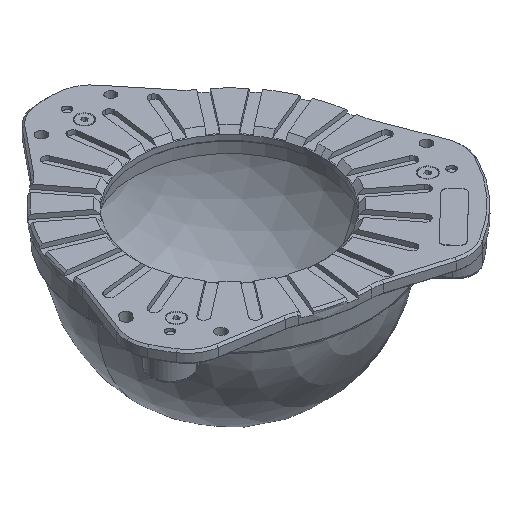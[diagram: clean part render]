
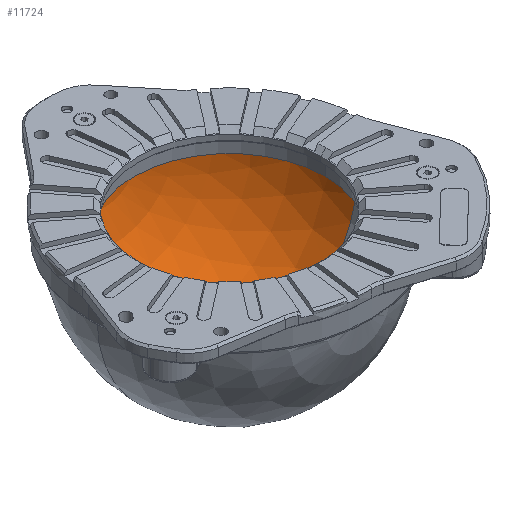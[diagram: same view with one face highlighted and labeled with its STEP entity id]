
A CAD part, isometric view. The second image highlights one B-rep face of the part: STEP entity #11724.
In plain terms, the highlighted spherical face has radius 52 mm.
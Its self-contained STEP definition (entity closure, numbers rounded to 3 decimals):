
#11663 = VERTEX_POINT ( 'NONE', #19017 ) ;
#11666 = VERTEX_POINT ( 'NONE', #19016 ) ;
#11673 = VERTEX_POINT ( 'NONE', #19100 ) ;
#11704 = ORIENTED_EDGE ( 'NONE', *, *, #11705, .F. ) ;
#11705 = EDGE_CURVE ( 'NONE', #11706, #11666, #19178, .T. ) ;
#11706 = VERTEX_POINT ( 'NONE', #19169 ) ;
#11707 = ORIENTED_EDGE ( 'NONE', *, *, #11709, .T. ) ;
#11709 = EDGE_CURVE ( 'NONE', #11706, #11710, #19167, .T. ) ;
#11710 = VERTEX_POINT ( 'NONE', #19162 ) ;
#11711 = ORIENTED_EDGE ( 'NONE', *, *, #11712, .F. ) ;
#11712 = EDGE_CURVE ( 'NONE', #11713, #11710, #19213, .T. ) ;
#11713 = VERTEX_POINT ( 'NONE', #19215 ) ;
#11714 = ORIENTED_EDGE ( 'NONE', *, *, #11715, .F. ) ;
#11715 = EDGE_CURVE ( 'NONE', #11716, #11713, #19212, .T. ) ;
#11716 = VERTEX_POINT ( 'NONE', #19208 ) ;
#11717 = ORIENTED_EDGE ( 'NONE', *, *, #11718, .F. ) ;
#11718 = EDGE_CURVE ( 'NONE', #11728, #11716, #19184, .T. ) ;
#11724 = ADVANCED_FACE ( 'NONE', ( #19232 ), #19268, .F. ) ;
#11725 = EDGE_LOOP ( 'NONE', ( #11726, #11729, #11731, #11704, #11707, #11711, #11714, #11717 ) ) ;
#11726 = ORIENTED_EDGE ( 'NONE', *, *, #11727, .T. ) ;
#11727 = EDGE_CURVE ( 'NONE', #11728, #11673, #19267, .T. ) ;
#11728 = VERTEX_POINT ( 'NONE', #19258 ) ;
#11729 = ORIENTED_EDGE ( 'NONE', *, *, #11730, .T. ) ;
#11730 = EDGE_CURVE ( 'NONE', #11673, #11663, #19257, .T. ) ;
#11731 = ORIENTED_EDGE ( 'NONE', *, *, #11732, .F. ) ;
#11732 = EDGE_CURVE ( 'NONE', #11666, #11663, #19305, .T. ) ;
#19016 = CARTESIAN_POINT ( 'NONE',  ( -34.415, 10.701, -61.479 ) ) ;
#19017 = CARTESIAN_POINT ( 'NONE',  ( -54.415, 10.701, -61.479 ) ) ;
#19100 = CARTESIAN_POINT ( 'NONE',  ( -96.407, 10.701, -11.404 ) ) ;
#19162 = CARTESIAN_POINT ( 'NONE',  ( -42.21, 62.645, -11.404 ) ) ;
#19163 = DIRECTION ( 'NONE',  ( 1., 0., 0. ) ) ;
#19164 = DIRECTION ( 'NONE',  ( 0., 0., 1. ) ) ;
#19165 = CARTESIAN_POINT ( 'NONE',  ( -44.415, 10.701, -11.404 ) ) ;
#19166 = AXIS2_PLACEMENT_3D ( 'NONE', #19165, #19164, #19163 ) ;
#19167 = CIRCLE ( 'NONE', #19166, 51.991 ) ;
#19169 = CARTESIAN_POINT ( 'NONE',  ( 7.576, 10.701, -11.404 ) ) ;
#19170 = DIRECTION ( 'NONE',  ( -1., 0., 0. ) ) ;
#19171 = DIRECTION ( 'NONE',  ( 0., 1., 0. ) ) ;
#19172 = CARTESIAN_POINT ( 'NONE',  ( -44.415, 10.701, -10.45 ) ) ;
#19173 = AXIS2_PLACEMENT_3D ( 'NONE', #19172, #19171, #19170 ) ;
#19178 = CIRCLE ( 'NONE', #19173, 52. ) ;
#19181 = CARTESIAN_POINT ( 'NONE',  ( -46.454, 62.632, -12.508 ) ) ;
#19182 = CARTESIAN_POINT ( 'NONE',  ( -46.621, 62.645, -11.404 ) ) ;
#19184 = B_SPLINE_CURVE_WITH_KNOTS ( 'NONE', 3,
 ( #19182, #19181, #19251, #19250, #19249, #19248, #19247, #19246, #19245, #19244, #19243, #19242, #19241, #19240, #19239, #19238, #19237, #19236, #19235, #19234, #19233 ),
 .UNSPECIFIED., .F., .F.,
 ( 4, 2, 1, 1, 1, 2, 2, 2, 2, 2, 2, 4 ),
 ( 0.016, 0.019, 0.02, 0.021, 0.021, 0.021, 0.021, 0.021, 0.022, 0.022, 0.022, 0.023 ),
 .UNSPECIFIED. ) ;
#19185 = CARTESIAN_POINT ( 'NONE',  ( -42.21, 62.645, -11.404 ) ) ;
#19186 = CARTESIAN_POINT ( 'NONE',  ( -42.378, 62.632, -12.515 ) ) ;
#19187 = CARTESIAN_POINT ( 'NONE',  ( -42.541, 62.582, -13.632 ) ) ;
#19188 = CARTESIAN_POINT ( 'NONE',  ( -42.737, 62.473, -15.024 ) ) ;
#19189 = CARTESIAN_POINT ( 'NONE',  ( -42.776, 62.449, -15.302 ) ) ;
#19190 = CARTESIAN_POINT ( 'NONE',  ( -42.834, 62.409, -15.719 ) ) ;
#19191 = CARTESIAN_POINT ( 'NONE',  ( -42.863, 62.389, -15.927 ) ) ;
#19192 = CARTESIAN_POINT ( 'NONE',  ( -42.891, 62.367, -16.136 ) ) ;
#19193 = CARTESIAN_POINT ( 'NONE',  ( -42.906, 62.355, -16.24 ) ) ;
#19194 = CARTESIAN_POINT ( 'NONE',  ( -42.909, 62.352, -16.275 ) ) ;
#19195 = CARTESIAN_POINT ( 'NONE',  ( -42.921, 62.344, -16.344 ) ) ;
#19196 = CARTESIAN_POINT ( 'NONE',  ( -42.935, 62.341, -16.375 ) ) ;
#19197 = CARTESIAN_POINT ( 'NONE',  ( -42.977, 62.331, -16.468 ) ) ;
#19198 = CARTESIAN_POINT ( 'NONE',  ( -43.015, 62.325, -16.528 ) ) ;
#19199 = CARTESIAN_POINT ( 'NONE',  ( -43.097, 62.314, -16.639 ) ) ;
#19200 = CARTESIAN_POINT ( 'NONE',  ( -43.143, 62.309, -16.69 ) ) ;
#19201 = CARTESIAN_POINT ( 'NONE',  ( -43.29, 62.295, -16.833 ) ) ;
#19202 = CARTESIAN_POINT ( 'NONE',  ( -43.403, 62.287, -16.916 ) ) ;
#19203 = CARTESIAN_POINT ( 'NONE',  ( -43.644, 62.275, -17.048 ) ) ;
#19204 = CARTESIAN_POINT ( 'NONE',  ( -43.774, 62.27, -17.098 ) ) ;
#19205 = CARTESIAN_POINT ( 'NONE',  ( -44.04, 62.264, -17.166 ) ) ;
#19206 = CARTESIAN_POINT ( 'NONE',  ( -44.177, 62.263, -17.183 ) ) ;
#19207 = CARTESIAN_POINT ( 'NONE',  ( -44.315, 62.263, -17.182 ) ) ;
#19208 = CARTESIAN_POINT ( 'NONE',  ( -44.515, 62.263, -17.182 ) ) ;
#19209 = DIRECTION ( 'NONE',  ( 0., 0.707, 0.707 ) ) ;
#19210 = DIRECTION ( 'NONE',  ( 0., 0.707, -0.707 ) ) ;
#19211 = AXIS2_PLACEMENT_3D ( 'NONE', #19214, #19210, #19209 ) ;
#19212 = CIRCLE ( 'NONE', #19211, 31.7 ) ;
#19213 = B_SPLINE_CURVE_WITH_KNOTS ( 'NONE', 3,
 ( #19207, #19206, #19205, #19204, #19203, #19202, #19201, #19200, #19199, #19198, #19197, #19196, #19195, #19194, #19193, #19192, #19191, #19190, #19189, #19188, #19187, #19186, #19185 ),
 .UNSPECIFIED., .F., .F.,
 ( 4, 2, 2, 2, 2, 2, 2, 2, 1, 2, 2, 4 ),
 ( 0.001, 0.001, 0.001, 0.002, 0.002, 0.002, 0.002, 0.002, 0.003, 0.003, 0.004, 0.007 ),
 .UNSPECIFIED. ) ;
#19214 = CARTESIAN_POINT ( 'NONE',  ( -44.415, 39.848, -39.597 ) ) ;
#19215 = CARTESIAN_POINT ( 'NONE',  ( -44.315, 62.263, -17.182 ) ) ;
#19232 = FACE_OUTER_BOUND ( 'NONE', #11725, .T. ) ;
#19233 = CARTESIAN_POINT ( 'NONE',  ( -44.515, 62.263, -17.182 ) ) ;
#19234 = CARTESIAN_POINT ( 'NONE',  ( -44.657, 62.263, -17.183 ) ) ;
#19235 = CARTESIAN_POINT ( 'NONE',  ( -44.796, 62.264, -17.165 ) ) ;
#19236 = CARTESIAN_POINT ( 'NONE',  ( -45.067, 62.27, -17.095 ) ) ;
#19237 = CARTESIAN_POINT ( 'NONE',  ( -45.199, 62.275, -17.043 ) ) ;
#19238 = CARTESIAN_POINT ( 'NONE',  ( -45.443, 62.288, -16.906 ) ) ;
#19239 = CARTESIAN_POINT ( 'NONE',  ( -45.557, 62.297, -16.82 ) ) ;
#19240 = CARTESIAN_POINT ( 'NONE',  ( -45.754, 62.316, -16.622 ) ) ;
#19241 = CARTESIAN_POINT ( 'NONE',  ( -45.841, 62.327, -16.509 ) ) ;
#19242 = CARTESIAN_POINT ( 'NONE',  ( -45.901, 62.342, -16.362 ) ) ;
#19243 = CARTESIAN_POINT ( 'NONE',  ( -45.907, 62.344, -16.345 ) ) ;
#19244 = CARTESIAN_POINT ( 'NONE',  ( -45.916, 62.348, -16.311 ) ) ;
#19245 = CARTESIAN_POINT ( 'NONE',  ( -45.918, 62.35, -16.294 ) ) ;
#19246 = CARTESIAN_POINT ( 'NONE',  ( -45.925, 62.355, -16.242 ) ) ;
#19247 = CARTESIAN_POINT ( 'NONE',  ( -45.939, 62.366, -16.139 ) ) ;
#19248 = CARTESIAN_POINT ( 'NONE',  ( -45.972, 62.392, -15.897 ) ) ;
#19249 = CARTESIAN_POINT ( 'NONE',  ( -46.039, 62.439, -15.414 ) ) ;
#19250 = CARTESIAN_POINT ( 'NONE',  ( -46.097, 62.475, -15. ) ) ;
#19251 = CARTESIAN_POINT ( 'NONE',  ( -46.292, 62.582, -13.618 ) ) ;
#19257 = CIRCLE ( 'NONE', #19309, 52. ) ;
#19258 = CARTESIAN_POINT ( 'NONE',  ( -46.621, 62.645, -11.404 ) ) ;
#19259 = DIRECTION ( 'NONE',  ( 1., 0., 0. ) ) ;
#19260 = DIRECTION ( 'NONE',  ( 0., 0., 1. ) ) ;
#19261 = CARTESIAN_POINT ( 'NONE',  ( -44.415, 10.701, -11.404 ) ) ;
#19262 = AXIS2_PLACEMENT_3D ( 'NONE', #19261, #19260, #19259 ) ;
#19263 = DIRECTION ( 'NONE',  ( 1., 0., 0. ) ) ;
#19264 = DIRECTION ( 'NONE',  ( 0., -1., 0. ) ) ;
#19265 = CARTESIAN_POINT ( 'NONE',  ( -44.415, 10.701, -10.45 ) ) ;
#19266 = AXIS2_PLACEMENT_3D ( 'NONE', #19265, #19264, #19263 ) ;
#19267 = CIRCLE ( 'NONE', #19262, 51.991 ) ;
#19268 = SPHERICAL_SURFACE ( 'NONE', #19266, 52. ) ;
#19301 = DIRECTION ( 'NONE',  ( 1., 0., 0. ) ) ;
#19302 = DIRECTION ( 'NONE',  ( 0., 0., 1. ) ) ;
#19303 = CARTESIAN_POINT ( 'NONE',  ( -44.415, 10.701, -61.479 ) ) ;
#19304 = AXIS2_PLACEMENT_3D ( 'NONE', #19303, #19302, #19301 ) ;
#19305 = CIRCLE ( 'NONE', #19304, 10. ) ;
#19306 = DIRECTION ( 'NONE',  ( 1., 0., 0. ) ) ;
#19307 = DIRECTION ( 'NONE',  ( 0., -1., 0. ) ) ;
#19308 = CARTESIAN_POINT ( 'NONE',  ( -44.415, 10.701, -10.45 ) ) ;
#19309 = AXIS2_PLACEMENT_3D ( 'NONE', #19308, #19307, #19306 ) ;
